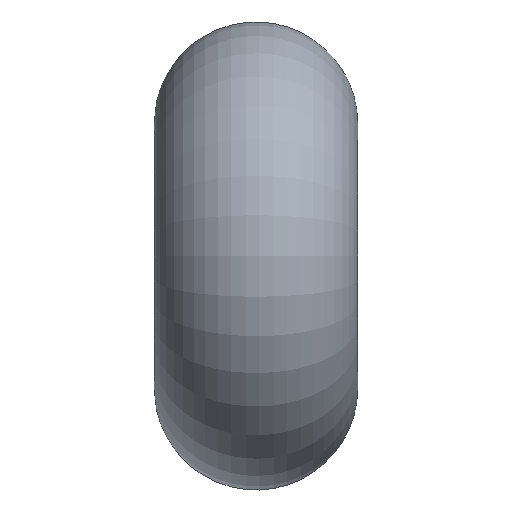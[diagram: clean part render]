
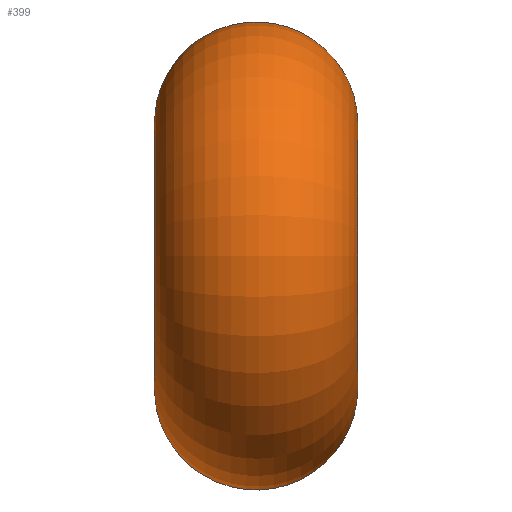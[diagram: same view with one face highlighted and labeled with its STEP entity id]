
A CAD part, left-side view. The second image highlights one B-rep face of the part: STEP entity #399.
In plain terms, the highlighted toroidal (fillet/blend) face has major radius 3.25 mm and minor radius 2.5 mm.
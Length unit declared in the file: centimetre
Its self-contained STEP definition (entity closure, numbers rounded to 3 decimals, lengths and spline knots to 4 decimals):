
#129=CARTESIAN_POINT('',(0.426,-0.0068,-0.3773));
#130=VERTEX_POINT('',#129);
#182=CARTESIAN_POINT('',(0.3399,0.1193,-0.4506));
#183=VERTEX_POINT('',#182);
#191=CARTESIAN_POINT('',(0.4483,-0.007,-0.3503));
#192=VERTEX_POINT('',#191);
#193=CARTESIAN_POINT('',(0.3399,0.1193,-0.4506));
#194=CARTESIAN_POINT('',(0.3387,0.1437,-0.4424));
#195=CARTESIAN_POINT('',(0.3428,0.1655,-0.4258));
#196=CARTESIAN_POINT('',(0.3514,0.1819,-0.4045));
#197=CARTESIAN_POINT('',(0.3599,0.1983,-0.3832));
#198=CARTESIAN_POINT('',(0.373,0.2094,-0.3573));
#199=CARTESIAN_POINT('',(0.3908,0.2126,-0.332));
#200=CARTESIAN_POINT('',(0.3997,0.2142,-0.3193));
#201=CARTESIAN_POINT('',(0.4098,0.2138,-0.3068));
#202=CARTESIAN_POINT('',(0.4203,0.2111,-0.2958));
#203=CARTESIAN_POINT('',(0.4309,0.2085,-0.2848));
#204=CARTESIAN_POINT('',(0.4419,0.2036,-0.2753));
#205=CARTESIAN_POINT('',(0.4522,0.1969,-0.2677));
#206=CARTESIAN_POINT('',(0.4728,0.1834,-0.2525));
#207=CARTESIAN_POINT('',(0.4906,0.1628,-0.2449));
#208=CARTESIAN_POINT('',(0.5015,0.1393,-0.2438));
#209=CARTESIAN_POINT('',(0.5123,0.1159,-0.2426));
#210=CARTESIAN_POINT('',(0.5162,0.0896,-0.248));
#211=CARTESIAN_POINT('',(0.5125,0.066,-0.2592));
#212=CARTESIAN_POINT('',(0.5088,0.0424,-0.2705));
#213=CARTESIAN_POINT('',(0.4974,0.0216,-0.2877));
#214=CARTESIAN_POINT('',(0.4815,0.0084,-0.3086));
#215=CARTESIAN_POINT('',(0.4776,0.0051,-0.3138));
#216=CARTESIAN_POINT('',(0.4733,0.0023,-0.3193));
#217=CARTESIAN_POINT('',(0.4689,0.,-0.3249));
#218=CARTESIAN_POINT('',(0.4624,-0.0035,-0.3331));
#219=CARTESIAN_POINT('',(0.4554,-0.0058,-0.3417));
#220=CARTESIAN_POINT('',(0.4483,-0.0069,-0.3504));
#221=B_SPLINE_CURVE_WITH_KNOTS('',3,(#193,#194,#195,#196,#197,#198,#199,#200,#201,#202,#203,#204,#205,#206,#207,#208,#209,#210,#211,#212,#213,#214,#215,#216,#217,#218,#219,#220),.UNSPECIFIED.,.F.,.U.,(4,3,3,3,3,3,3,3,3,4),(0.1041,0.1429,0.1816,0.201,0.2204,0.2592,0.2979,0.3367,0.3464,0.3607),.UNSPECIFIED.);
#222=EDGE_CURVE('',#183,#192,#221,.T.);
#224=CARTESIAN_POINT('',(0.4483,-0.0069,-0.3504));
#225=CARTESIAN_POINT('',(0.441,-0.0082,-0.3593));
#226=CARTESIAN_POINT('',(0.4334,-0.0081,-0.3684));
#227=CARTESIAN_POINT('',(0.426,-0.0068,-0.3773));
#228=B_SPLINE_CURVE_WITH_KNOTS('',3,(#224,#225,#226,#227),.UNSPECIFIED.,.F.,.U.,(4,4),(0.0,0.0148),.UNSPECIFIED.);
#229=EDGE_CURVE('',#192,#130,#228,.T.);
#266=CARTESIAN_POINT('',(0.426,-0.0068,-0.3773));
#267=CARTESIAN_POINT('',(0.4067,-0.0035,-0.4002));
#268=CARTESIAN_POINT('',(0.3755,0.0167,-0.436));
#269=CARTESIAN_POINT('',(0.3475,0.0693,-0.4591));
#270=CARTESIAN_POINT('',(0.3408,0.1033,-0.456));
#271=CARTESIAN_POINT('',(0.3399,0.1193,-0.4506));
#272=B_SPLINE_CURVE_WITH_KNOTS('',3,(#266,#267,#268,#269,#270,#271),.UNSPECIFIED.,.F.,.U.,(4,1,1,4),(0.,0.1546,0.2576,0.3607),.UNSPECIFIED.);
#273=EDGE_CURVE('',#130,#183,#272,.T.);
#315=CARTESIAN_POINT('',(0.0,0.0475,0.0));
#316=DIRECTION('',(0.0,1.0,0.0));
#317=DIRECTION('',(1.0,0.0,0.0));
#318=AXIS2_PLACEMENT_3D('',#315,#316,#317);
#319=TOROIDAL_SURFACE('',#318,0.325,0.25);
#320=CARTESIAN_POINT('',(0.4483,0.102,0.3503));
#321=VERTEX_POINT('',#320);
#322=CARTESIAN_POINT('',(0.426,0.1018,0.3773));
#323=VERTEX_POINT('',#322);
#324=CARTESIAN_POINT('',(0.4484,0.1019,0.3504));
#325=CARTESIAN_POINT('',(0.441,0.1032,0.3593));
#326=CARTESIAN_POINT('',(0.4334,0.1031,0.3684));
#327=CARTESIAN_POINT('',(0.426,0.1018,0.3773));
#328=B_SPLINE_CURVE_WITH_KNOTS('',3,(#324,#325,#326,#327),.UNSPECIFIED.,.F.,.U.,(4,4),(0.0,0.0148),.UNSPECIFIED.);
#329=EDGE_CURVE('',#321,#323,#328,.T.);
#330=ORIENTED_EDGE('',*,*,#329,.F.);
#331=CARTESIAN_POINT('',(0.3399,-0.0243,0.4506));
#332=VERTEX_POINT('',#331);
#333=CARTESIAN_POINT('',(0.3399,-0.0243,0.4506));
#334=CARTESIAN_POINT('',(0.3387,-0.0487,0.4424));
#335=CARTESIAN_POINT('',(0.3428,-0.0705,0.4258));
#336=CARTESIAN_POINT('',(0.3514,-0.0869,0.4045));
#337=CARTESIAN_POINT('',(0.3599,-0.1033,0.3833));
#338=CARTESIAN_POINT('',(0.373,-0.1143,0.3573));
#339=CARTESIAN_POINT('',(0.3908,-0.1175,0.3319));
#340=CARTESIAN_POINT('',(0.3997,-0.1191,0.3193));
#341=CARTESIAN_POINT('',(0.4098,-0.1188,0.3068));
#342=CARTESIAN_POINT('',(0.4204,-0.1161,0.2958));
#343=CARTESIAN_POINT('',(0.4309,-0.1135,0.2848));
#344=CARTESIAN_POINT('',(0.4419,-0.1085,0.2753));
#345=CARTESIAN_POINT('',(0.4522,-0.1018,0.2677));
#346=CARTESIAN_POINT('',(0.4728,-0.0884,0.2525));
#347=CARTESIAN_POINT('',(0.4906,-0.0678,0.2449));
#348=CARTESIAN_POINT('',(0.5015,-0.0443,0.2437));
#349=CARTESIAN_POINT('',(0.5124,-0.0208,0.2426));
#350=CARTESIAN_POINT('',(0.5163,0.0055,0.2479));
#351=CARTESIAN_POINT('',(0.5126,0.0291,0.2592));
#352=CARTESIAN_POINT('',(0.5088,0.0526,0.2705));
#353=CARTESIAN_POINT('',(0.4973,0.0735,0.2877));
#354=CARTESIAN_POINT('',(0.4815,0.0866,0.3086));
#355=CARTESIAN_POINT('',(0.4717,0.0948,0.3215));
#356=CARTESIAN_POINT('',(0.4603,0.1,0.3358));
#357=CARTESIAN_POINT('',(0.4484,0.1019,0.3504));
#358=B_SPLINE_CURVE_WITH_KNOTS('',3,(#333,#334,#335,#336,#337,#338,#339,#340,#341,#342,#343,#344,#345,#346,#347,#348,#349,#350,#351,#352,#353,#354,#355,#356,#357),.UNSPECIFIED.,.F.,.U.,(4,3,3,3,3,3,3,3,4),(0.1041,0.1429,0.1816,0.201,0.2204,0.2592,0.2979,0.3367,0.3607),.UNSPECIFIED.);
#359=EDGE_CURVE('',#332,#321,#358,.T.);
#360=ORIENTED_EDGE('',*,*,#359,.F.);
#361=CARTESIAN_POINT('',(0.426,0.1018,0.3773));
#362=CARTESIAN_POINT('',(0.4131,0.0996,0.3926));
#363=CARTESIAN_POINT('',(0.3879,0.0876,0.4218));
#364=CARTESIAN_POINT('',(0.3529,0.0434,0.4572));
#365=CARTESIAN_POINT('',(0.3412,-0.0003,0.4587));
#366=CARTESIAN_POINT('',(0.3399,-0.0243,0.4506));
#367=B_SPLINE_CURVE_WITH_KNOTS('',3,(#361,#362,#363,#364,#365,#366),.UNSPECIFIED.,.F.,.U.,(4,1,1,4),(0.,0.103,0.2061,0.3607),.UNSPECIFIED.);
#368=EDGE_CURVE('',#323,#332,#367,.T.);
#369=ORIENTED_EDGE('',*,*,#368,.F.);
#370=EDGE_LOOP('',(#330,#360,#369));
#371=FACE_OUTER_BOUND('',#370,.T.);
#372=CARTESIAN_POINT('',(0.325,-0.2025,0.));
#373=VERTEX_POINT('',#372);
#374=CARTESIAN_POINT('',(0.0,-0.2025,0.0));
#375=DIRECTION('',(0.0,1.0,0.0));
#376=DIRECTION('',(-1.0,0.0,0.0));
#377=AXIS2_PLACEMENT_3D('',#374,#375,#376);
#378=CIRCLE('',#377,0.325);
#379=EDGE_CURVE('',#373,#373,#378,.T.);
#380=ORIENTED_EDGE('',*,*,#379,.T.);
#381=EDGE_LOOP('',(#380));
#382=FACE_BOUND('',#381,.T.);
#383=CARTESIAN_POINT('',(0.325,0.2975,0.));
#384=VERTEX_POINT('',#383);
#385=CARTESIAN_POINT('',(0.0,0.2975,0.0));
#386=DIRECTION('',(0.0,-1.0,0.0));
#387=DIRECTION('',(-1.0,0.0,0.0));
#388=AXIS2_PLACEMENT_3D('',#385,#386,#387);
#389=CIRCLE('',#388,0.325);
#390=EDGE_CURVE('',#384,#384,#389,.T.);
#391=ORIENTED_EDGE('',*,*,#390,.T.);
#392=EDGE_LOOP('',(#391));
#393=FACE_BOUND('',#392,.T.);
#394=ORIENTED_EDGE('',*,*,#229,.F.);
#395=ORIENTED_EDGE('',*,*,#222,.F.);
#396=ORIENTED_EDGE('',*,*,#273,.F.);
#397=EDGE_LOOP('',(#394,#395,#396));
#398=FACE_BOUND('',#397,.T.);
#399=ADVANCED_FACE('',(#371,#382,#393,#398),#319,.T.);
